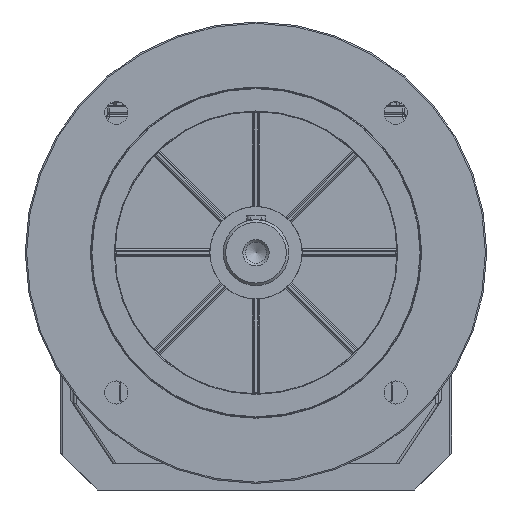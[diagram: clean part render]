
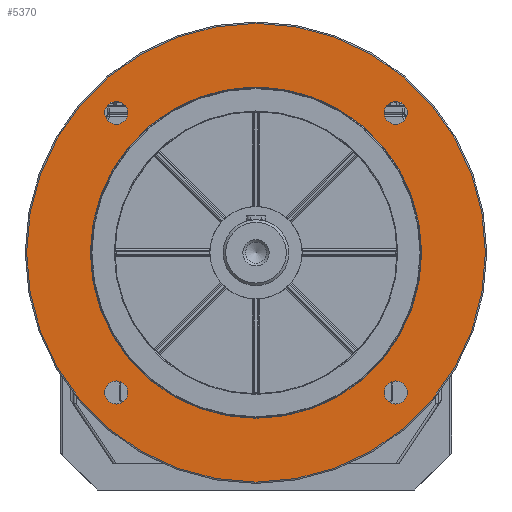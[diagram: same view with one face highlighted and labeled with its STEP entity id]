
A CAD part, front view. The second image highlights one B-rep face of the part: STEP entity #5370.
In plain terms, the highlighted planar face has unit normal (0, -1, 0).
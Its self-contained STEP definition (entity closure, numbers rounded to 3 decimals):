
#5292=CARTESIAN_POINT('',(0.0,-170.,354.0));
#5293=VERTEX_POINT('',#5292);
#5294=CARTESIAN_POINT('',(0.0,-170.,180.0));
#5295=DIRECTION('',(0.0,1.0,0.0));
#5296=DIRECTION('',(0.0,0.0,-1.0));
#5297=AXIS2_PLACEMENT_3D('',#5294,#5295,#5296);
#5298=CIRCLE('',#5297,174.0);
#5299=EDGE_CURVE('',#5293,#5293,#5298,.T.);
#5307=CARTESIAN_POINT('',(0.0,-170.,330.0));
#5308=DIRECTION('',(0.0,-1.0,0.0));
#5309=DIRECTION('',(0.0,0.0,-1.0));
#5310=AXIS2_PLACEMENT_3D('',#5307,#5308,#5309);
#5311=PLANE('',#5310);
#5312=ORIENTED_EDGE('',*,*,#5299,.F.);
#5313=EDGE_LOOP('',(#5312));
#5314=FACE_OUTER_BOUND('',#5313,.T.);
#5315=CARTESIAN_POINT('',(0.,-170.,305.5));
#5316=VERTEX_POINT('',#5315);
#5317=CARTESIAN_POINT('',(0.0,-170.,180.0));
#5318=DIRECTION('',(0.0,-1.0,0.0));
#5319=DIRECTION('',(0.0,0.0,-1.0));
#5320=AXIS2_PLACEMENT_3D('',#5317,#5318,#5319);
#5321=CIRCLE('',#5320,125.5);
#5322=EDGE_CURVE('',#5316,#5316,#5321,.T.);
#5323=ORIENTED_EDGE('',*,*,#5322,.F.);
#5324=EDGE_LOOP('',(#5323));
#5325=FACE_BOUND('',#5324,.T.);
#5326=CARTESIAN_POINT('',(-97.316,-170.,286.066));
#5327=VERTEX_POINT('',#5326);
#5328=CARTESIAN_POINT('',(-106.066,-170.,286.066));
#5329=DIRECTION('',(0.0,1.0,0.0));
#5330=DIRECTION('',(1.0,0.0,0.0));
#5331=AXIS2_PLACEMENT_3D('',#5328,#5329,#5330);
#5332=CIRCLE('',#5331,8.75);
#5333=EDGE_CURVE('',#5327,#5327,#5332,.T.);
#5334=ORIENTED_EDGE('',*,*,#5333,.T.);
#5335=EDGE_LOOP('',(#5334));
#5336=FACE_BOUND('',#5335,.T.);
#5337=CARTESIAN_POINT('',(114.816,-170.,286.066));
#5338=VERTEX_POINT('',#5337);
#5339=CARTESIAN_POINT('',(106.066,-170.,286.066));
#5340=DIRECTION('',(0.0,1.0,0.0));
#5341=DIRECTION('',(1.0,0.0,0.0));
#5342=AXIS2_PLACEMENT_3D('',#5339,#5340,#5341);
#5343=CIRCLE('',#5342,8.75);
#5344=EDGE_CURVE('',#5338,#5338,#5343,.T.);
#5345=ORIENTED_EDGE('',*,*,#5344,.T.);
#5346=EDGE_LOOP('',(#5345));
#5347=FACE_BOUND('',#5346,.T.);
#5348=CARTESIAN_POINT('',(-97.316,-170.,73.934));
#5349=VERTEX_POINT('',#5348);
#5350=CARTESIAN_POINT('',(-106.066,-170.,73.934));
#5351=DIRECTION('',(0.0,1.0,0.0));
#5352=DIRECTION('',(1.0,0.0,0.0));
#5353=AXIS2_PLACEMENT_3D('',#5350,#5351,#5352);
#5354=CIRCLE('',#5353,8.75);
#5355=EDGE_CURVE('',#5349,#5349,#5354,.T.);
#5356=ORIENTED_EDGE('',*,*,#5355,.T.);
#5357=EDGE_LOOP('',(#5356));
#5358=FACE_BOUND('',#5357,.T.);
#5359=CARTESIAN_POINT('',(114.816,-170.,73.934));
#5360=VERTEX_POINT('',#5359);
#5361=CARTESIAN_POINT('',(106.066,-170.,73.934));
#5362=DIRECTION('',(0.0,1.0,0.0));
#5363=DIRECTION('',(1.0,0.0,0.0));
#5364=AXIS2_PLACEMENT_3D('',#5361,#5362,#5363);
#5365=CIRCLE('',#5364,8.75);
#5366=EDGE_CURVE('',#5360,#5360,#5365,.T.);
#5367=ORIENTED_EDGE('',*,*,#5366,.T.);
#5368=EDGE_LOOP('',(#5367));
#5369=FACE_BOUND('',#5368,.T.);
#5370=ADVANCED_FACE('',(#5314,#5325,#5336,#5347,#5358,#5369),#5311,.T.);
